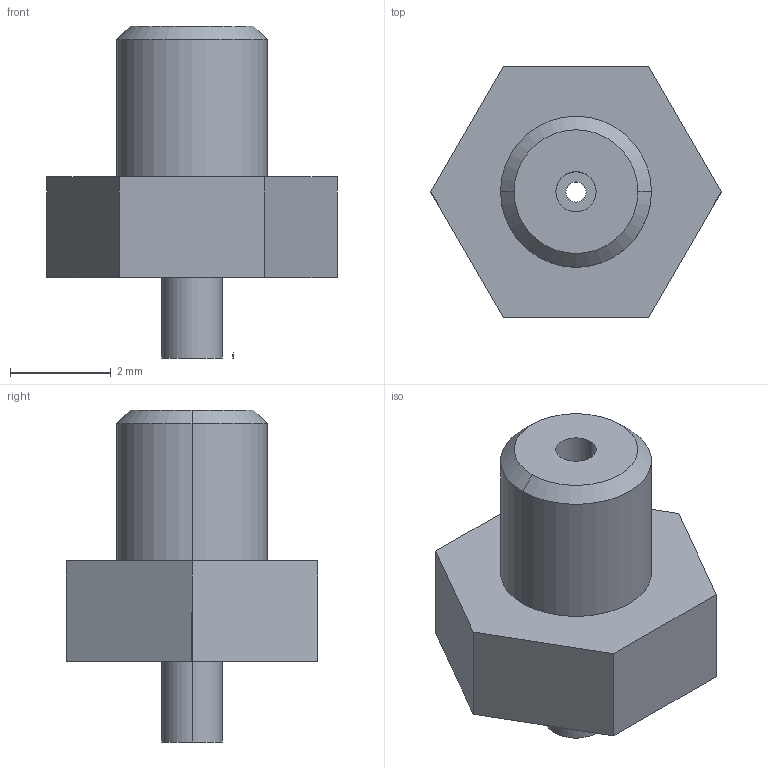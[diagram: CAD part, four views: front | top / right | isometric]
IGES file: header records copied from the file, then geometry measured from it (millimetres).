
Start section: 3D InterOp IGES (v. 2018 1.0.2), Spatial Corp. Copyright (c) 1999-2017.
Global section: file name: schmalz_10_01_01_10375_80a9z8lvdg7c1z100nh02xmiw.igs; native system: Spatial Corp.; preprocessor: 3D InterOp ACIS/IGES; author: TraceParts; organization: TraceParts S.A.; date: 20181115.074342; units: millimetre
Bounding box: 5.77 x 5 x 6.6 mm (x, y, z)
Surface area: 124.2 mm2 (no closed solid volume)
Topology: 0 solids, 0 shells, 31 faces, 130 edges, 128 vertices
Faces by surface type: revolution 18, extrusion 13
